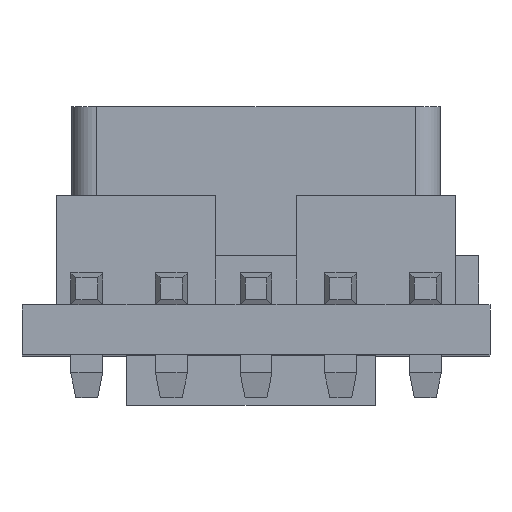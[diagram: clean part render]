
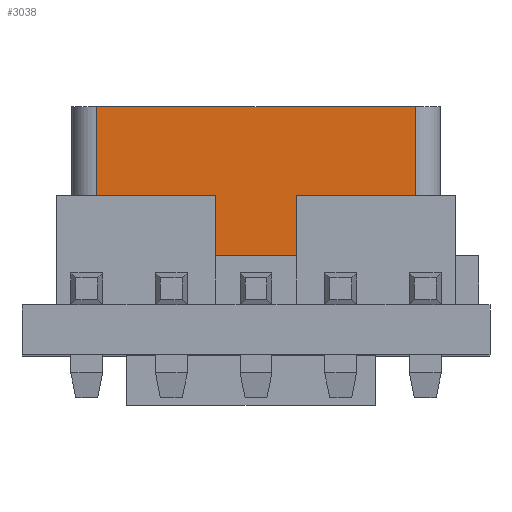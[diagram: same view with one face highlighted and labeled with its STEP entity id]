
A CAD part, top view. The second image highlights one B-rep face of the part: STEP entity #3038.
In plain terms, the highlighted planar face has unit normal (0, 0, 1).
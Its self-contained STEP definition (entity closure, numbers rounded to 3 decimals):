
#194 = VERTEX_POINT ( 'NONE', #4513 ) ;
#312 = PLANE ( 'NONE',  #2067 ) ;
#757 = EDGE_CURVE ( 'NONE', #5079, #194, #1500, .T. ) ;
#797 = EDGE_CURVE ( 'NONE', #2090, #1603, #1565, .T. ) ;
#815 = EDGE_CURVE ( 'NONE', #5079, #2090, #1741, .T. ) ;
#1252 = CARTESIAN_POINT ( 'NONE',  ( 3.2, 4.5, -1.05 ) ) ;
#1500 = LINE ( 'NONE', #2783, #1637 ) ;
#1565 = LINE ( 'NONE', #1252, #1766 ) ;
#1603 = VERTEX_POINT ( 'NONE', #3408 ) ;
#1605 = VECTOR ( 'NONE', #3746, 1000. ) ;
#1637 = VECTOR ( 'NONE', #3014, 1000. ) ;
#1741 = LINE ( 'NONE', #3630, #1605 ) ;
#1766 = VECTOR ( 'NONE', #2911, 1000. ) ;
#1848 = EDGE_CURVE ( 'NONE', #194, #1603, #3083, .T. ) ;
#1973 = DIRECTION ( 'NONE',  ( 1., 0., 0. ) ) ;
#2067 = AXIS2_PLACEMENT_3D ( 'NONE', #2253, #5276, #2807 ) ;
#2090 = VERTEX_POINT ( 'NONE', #3739 ) ;
#2147 = EDGE_LOOP ( 'NONE', ( #4515, #4890, #2254, #3972 ) ) ;
#2231 = CARTESIAN_POINT ( 'NONE',  ( -3.2, 0.5, -1.05 ) ) ;
#2253 = CARTESIAN_POINT ( 'NONE',  ( -3.2, 4.5, -1.05 ) ) ;
#2254 = ORIENTED_EDGE ( 'NONE', *, *, #815, .F. ) ;
#2783 = CARTESIAN_POINT ( 'NONE',  ( -3.2, 4.5, -1.05 ) ) ;
#2807 = DIRECTION ( 'NONE',  ( -1., 0., 0. ) ) ;
#2908 = VECTOR ( 'NONE', #1973, 1000. ) ;
#2911 = DIRECTION ( 'NONE',  ( 0., -1., 0. ) ) ;
#3014 = DIRECTION ( 'NONE',  ( 0., -1., 0. ) ) ;
#3038 = ADVANCED_FACE ( 'NONE', ( #4696 ), #312, .F. ) ;
#3083 = LINE ( 'NONE', #2231, #2908 ) ;
#3408 = CARTESIAN_POINT ( 'NONE',  ( 3.2, 0.5, -1.05 ) ) ;
#3630 = CARTESIAN_POINT ( 'NONE',  ( -3.2, 4.5, -1.05 ) ) ;
#3739 = CARTESIAN_POINT ( 'NONE',  ( 3.2, 4.5, -1.05 ) ) ;
#3746 = DIRECTION ( 'NONE',  ( 1., 0., 0. ) ) ;
#3972 = ORIENTED_EDGE ( 'NONE', *, *, #757, .T. ) ;
#4513 = CARTESIAN_POINT ( 'NONE',  ( -3.2, 0.5, -1.05 ) ) ;
#4515 = ORIENTED_EDGE ( 'NONE', *, *, #1848, .T. ) ;
#4530 = CARTESIAN_POINT ( 'NONE',  ( -3.2, 4.5, -1.05 ) ) ;
#4696 = FACE_OUTER_BOUND ( 'NONE', #2147, .T. ) ;
#4890 = ORIENTED_EDGE ( 'NONE', *, *, #797, .F. ) ;
#5079 = VERTEX_POINT ( 'NONE', #4530 ) ;
#5276 = DIRECTION ( 'NONE',  ( 0., 0., -1. ) ) ;
